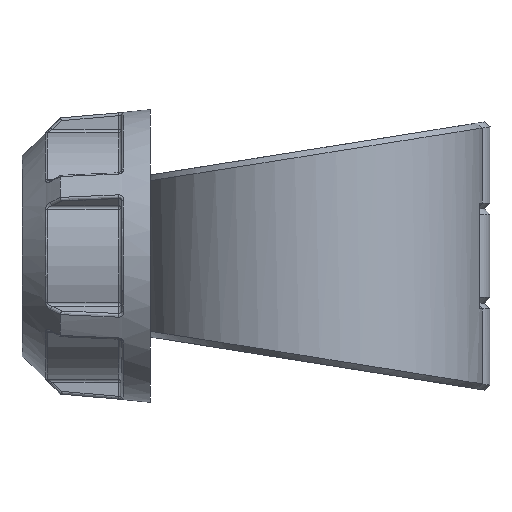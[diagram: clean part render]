
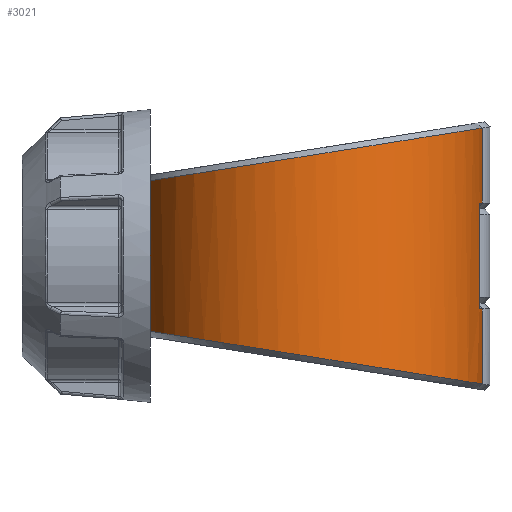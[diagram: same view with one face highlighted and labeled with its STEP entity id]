
A CAD part, left-side view. The second image highlights one B-rep face of the part: STEP entity #3021.
In plain terms, the highlighted cylindrical face has radius 59.5 mm (diameter 119 mm), a partial arc.
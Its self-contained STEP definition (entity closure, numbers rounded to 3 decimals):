
#212=FACE_OUTER_BOUND('',#416,.T.);
#416=EDGE_LOOP('',(#2055,#2056,#2057,#2058,#2059,#2060,#2061,#2062,#2063,
#2064,#2065,#2066));
#623=CIRCLE('',#3251,59.5);
#626=CIRCLE('',#3256,59.5);
#805=B_SPLINE_CURVE_WITH_KNOTS('',3,(#4524,#4525,#4526,#4527),
 .UNSPECIFIED.,.F.,.F.,(4,4),(-0.002,0.),.UNSPECIFIED.);
#806=B_SPLINE_CURVE_WITH_KNOTS('',3,(#4529,#4530,#4531,#4532),
 .UNSPECIFIED.,.F.,.F.,(4,4),(-3.037,-3.037),
 .UNSPECIFIED.);
#807=B_SPLINE_CURVE_WITH_KNOTS('',3,(#4533,#4534,#4535,#4536,#4537,#4538,
#4539,#4540,#4541,#4542),.UNSPECIFIED.,.F.,.F.,(4,1,1,1,1,1,1,4),(0.316,
0.596,1.005,1.415,1.824,2.233,
2.642,3.037),.UNSPECIFIED.);
#808=B_SPLINE_CURVE_WITH_KNOTS('',3,(#4544,#4545,#4546,#4547,#4548,#4549,
#4550,#4551,#4552,#4553),.UNSPECIFIED.,.F.,.F.,(4,1,1,1,1,1,1,4),(-3.037,
-2.642,-2.233,-1.824,-1.415,
-1.005,-0.596,-0.316),.UNSPECIFIED.);
#809=B_SPLINE_CURVE_WITH_KNOTS('',3,(#4555,#4556,#4557,#4558),
 .UNSPECIFIED.,.F.,.F.,(4,4),(3.037,3.037),
 .UNSPECIFIED.);
#810=B_SPLINE_CURVE_WITH_KNOTS('',3,(#4560,#4561,#4562,#4563),
 .UNSPECIFIED.,.F.,.F.,(4,4),(-0.435,-0.433),
 .UNSPECIFIED.);
#972=LINE('',#4397,#1093);
#979=LINE('',#4458,#1100);
#985=LINE('',#4522,#1106);
#986=LINE('',#4564,#1107);
#1093=VECTOR('',#3575,10.);
#1100=VECTOR('',#3592,10.);
#1106=VECTOR('',#3638,10.);
#1107=VECTOR('',#3639,10.);
#1216=VERTEX_POINT('',#4376);
#1217=VERTEX_POINT('',#4396);
#1229=VERTEX_POINT('',#4452);
#1230=VERTEX_POINT('',#4457);
#1236=VERTEX_POINT('',#4478);
#1239=VERTEX_POINT('',#4499);
#1243=VERTEX_POINT('',#4521);
#1244=VERTEX_POINT('',#4523);
#1245=VERTEX_POINT('',#4528);
#1246=VERTEX_POINT('',#4543);
#1247=VERTEX_POINT('',#4554);
#1248=VERTEX_POINT('',#4559);
#1510=EDGE_CURVE('',#1216,#1217,#972,.T.);
#1524=EDGE_CURVE('',#1229,#1230,#979,.T.);
#1537=EDGE_CURVE('',#1236,#1229,#623,.T.);
#1542=EDGE_CURVE('',#1230,#1239,#626,.T.);
#1548=EDGE_CURVE('',#1243,#1236,#985,.T.);
#1549=EDGE_CURVE('',#1244,#1243,#805,.T.);
#1550=EDGE_CURVE('',#1244,#1245,#806,.T.);
#1551=EDGE_CURVE('',#1217,#1245,#807,.T.);
#1552=EDGE_CURVE('',#1246,#1216,#808,.T.);
#1553=EDGE_CURVE('',#1246,#1247,#809,.T.);
#1554=EDGE_CURVE('',#1248,#1247,#810,.T.);
#1555=EDGE_CURVE('',#1239,#1248,#986,.T.);
#2055=ORIENTED_EDGE('',*,*,#1542,.F.);
#2056=ORIENTED_EDGE('',*,*,#1524,.F.);
#2057=ORIENTED_EDGE('',*,*,#1537,.F.);
#2058=ORIENTED_EDGE('',*,*,#1548,.F.);
#2059=ORIENTED_EDGE('',*,*,#1549,.F.);
#2060=ORIENTED_EDGE('',*,*,#1550,.T.);
#2061=ORIENTED_EDGE('',*,*,#1551,.F.);
#2062=ORIENTED_EDGE('',*,*,#1510,.F.);
#2063=ORIENTED_EDGE('',*,*,#1552,.F.);
#2064=ORIENTED_EDGE('',*,*,#1553,.T.);
#2065=ORIENTED_EDGE('',*,*,#1554,.F.);
#2066=ORIENTED_EDGE('',*,*,#1555,.F.);
#2962=CYLINDRICAL_SURFACE('',#3261,59.5);
#3021=ADVANCED_FACE('',(#212),#2962,.T.);
#3251=AXIS2_PLACEMENT_3D('',#4494,#3614,#3615);
#3256=AXIS2_PLACEMENT_3D('',#4508,#3624,#3625);
#3261=AXIS2_PLACEMENT_3D('',#4520,#3636,#3637);
#3575=DIRECTION('',(0.,0.,1.));
#3592=DIRECTION('',(0.,0.,-1.));
#3614=DIRECTION('center_axis',(0.,0.,-1.));
#3615=DIRECTION('ref_axis',(0.312,-0.95,0.));
#3624=DIRECTION('center_axis',(0.,0.,1.));
#3625=DIRECTION('ref_axis',(0.312,-0.95,0.));
#3636=DIRECTION('center_axis',(0.,0.,1.));
#3637=DIRECTION('ref_axis',(-0.312,0.95,0.));
#3638=DIRECTION('',(0.,0.,-1.));
#3639=DIRECTION('',(0.,0.,-1.));
#4376=CARTESIAN_POINT('',(-18.579,56.525,-26.198));
#4396=CARTESIAN_POINT('',(-18.579,56.525,26.198));
#4397=CARTESIAN_POINT('',(-18.579,56.525,0.));
#4452=CARTESIAN_POINT('',(-12.115,-58.254,18.45));
#4457=CARTESIAN_POINT('',(-12.115,-58.254,-18.45));
#4458=CARTESIAN_POINT('',(-12.115,-58.254,0.));
#4478=CARTESIAN_POINT('',(-6.19,-59.177,18.45));
#4494=CARTESIAN_POINT('Origin',(0.,0.,18.45));
#4499=CARTESIAN_POINT('',(-6.19,-59.177,-18.45));
#4508=CARTESIAN_POINT('Origin',(0.,0.,-18.45));
#4520=CARTESIAN_POINT('Origin',(0.,0.,0.));
#4521=CARTESIAN_POINT('',(-6.19,-59.177,44.557));
#4522=CARTESIAN_POINT('',(-6.19,-59.177,0.));
#4523=CARTESIAN_POINT('',(-6.17,-59.179,44.571));
#4524=CARTESIAN_POINT('Ctrl Pts',(-6.17,-59.179,44.571));
#4525=CARTESIAN_POINT('Ctrl Pts',(-6.176,-59.178,44.566));
#4526=CARTESIAN_POINT('Ctrl Pts',(-6.183,-59.177,44.562));
#4527=CARTESIAN_POINT('Ctrl Pts',(-6.19,-59.177,44.557));
#4528=CARTESIAN_POINT('',(-6.19,-59.177,44.571));
#4529=CARTESIAN_POINT('Ctrl Pts',(-6.17,-59.179,44.571));
#4530=CARTESIAN_POINT('Ctrl Pts',(-6.177,-59.178,44.571));
#4531=CARTESIAN_POINT('Ctrl Pts',(-6.183,-59.178,44.571));
#4532=CARTESIAN_POINT('Ctrl Pts',(-6.19,-59.177,44.571));
#4533=CARTESIAN_POINT('Ctrl Pts',(-18.578,56.522,26.198));
#4534=CARTESIAN_POINT('Ctrl Pts',(-23.883,54.777,26.474));
#4535=CARTESIAN_POINT('Ctrl Pts',(-36.333,48.653,27.441));
#4536=CARTESIAN_POINT('Ctrl Pts',(-51.816,32.553,29.988));
#4537=CARTESIAN_POINT('Ctrl Pts',(-60.498,9.2,33.688));
#4538=CARTESIAN_POINT('Ctrl Pts',(-59.15,-15.622,37.631));
#4539=CARTESIAN_POINT('Ctrl Pts',(-48.086,-37.823,41.164));
#4540=CARTESIAN_POINT('Ctrl Pts',(-29.375,-53.586,43.678));
#4541=CARTESIAN_POINT('Ctrl Pts',(-13.932,-58.366,44.441));
#4542=CARTESIAN_POINT('Ctrl Pts',(-6.19,-59.177,44.571));
#4543=CARTESIAN_POINT('',(-6.19,-59.177,-44.571));
#4544=CARTESIAN_POINT('Ctrl Pts',(-6.19,-59.177,-44.571));
#4545=CARTESIAN_POINT('Ctrl Pts',(-13.932,-58.366,-44.441));
#4546=CARTESIAN_POINT('Ctrl Pts',(-29.375,-53.586,-43.678));
#4547=CARTESIAN_POINT('Ctrl Pts',(-48.086,-37.823,-41.164));
#4548=CARTESIAN_POINT('Ctrl Pts',(-59.151,-15.622,-37.631));
#4549=CARTESIAN_POINT('Ctrl Pts',(-60.497,9.2,-33.688));
#4550=CARTESIAN_POINT('Ctrl Pts',(-51.819,32.555,-29.987));
#4551=CARTESIAN_POINT('Ctrl Pts',(-36.33,48.65,-27.442));
#4552=CARTESIAN_POINT('Ctrl Pts',(-23.882,54.776,-26.474));
#4553=CARTESIAN_POINT('Ctrl Pts',(-18.578,56.522,-26.198));
#4554=CARTESIAN_POINT('',(-6.17,-59.179,-44.571));
#4555=CARTESIAN_POINT('Ctrl Pts',(-6.19,-59.177,-44.571));
#4556=CARTESIAN_POINT('Ctrl Pts',(-6.183,-59.178,-44.571));
#4557=CARTESIAN_POINT('Ctrl Pts',(-6.177,-59.178,-44.571));
#4558=CARTESIAN_POINT('Ctrl Pts',(-6.17,-59.179,-44.571));
#4559=CARTESIAN_POINT('',(-6.19,-59.177,-44.557));
#4560=CARTESIAN_POINT('Ctrl Pts',(-6.19,-59.177,-44.557));
#4561=CARTESIAN_POINT('Ctrl Pts',(-6.183,-59.177,-44.562));
#4562=CARTESIAN_POINT('Ctrl Pts',(-6.176,-59.178,-44.566));
#4563=CARTESIAN_POINT('Ctrl Pts',(-6.17,-59.179,-44.571));
#4564=CARTESIAN_POINT('',(-6.19,-59.177,0.));
